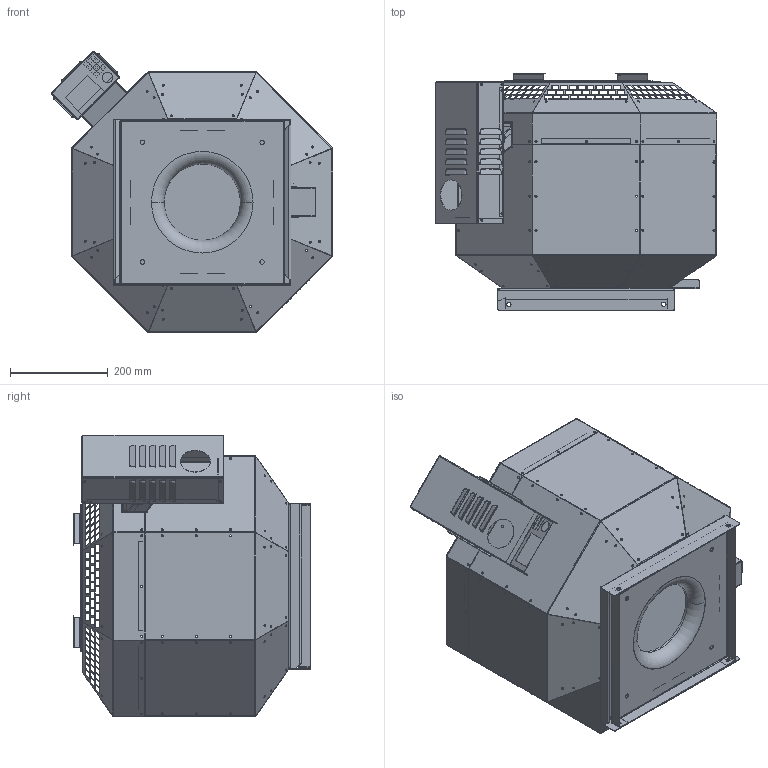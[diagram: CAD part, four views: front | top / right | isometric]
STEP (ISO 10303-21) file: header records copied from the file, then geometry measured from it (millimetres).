
FILE_DESCRIPTION (( 'STEP AP203' ), '1' );
FILE_NAME ('144616-00_DVNI250D2F430_step.step', '2018-07-31T13:06:19', ( '' ), ( '' ), 'SwSTEP 2.0', 'SolidWorks 2017', '' );
FILE_SCHEMA (( 'CONFIG_CONTROL_DESIGN' ));
Products named in the file (2): 144616-00_DVNI250D2F430_step
Bounding box: 576.37 x 484.07 x 576.22 mm (x, y, z)
Surface area: 2599638.4 mm2 (no closed solid volume)
Topology: 0 solids, 52 shells, 1365 faces, 6477 edges, 4829 vertices
Faces by surface type: plane 986, cylinder 308, bspline 65, cone 4, torus 2
Entity records: 83677 total; most frequent: CARTESIAN_POINT 31266, DIRECTION 9963, ORIENTED_EDGE 9438, EDGE_CURVE 6477, VERTEX_POINT 4829, VECTOR 4619, LINE 4619, AXIS2_PLACEMENT_3D 2672
